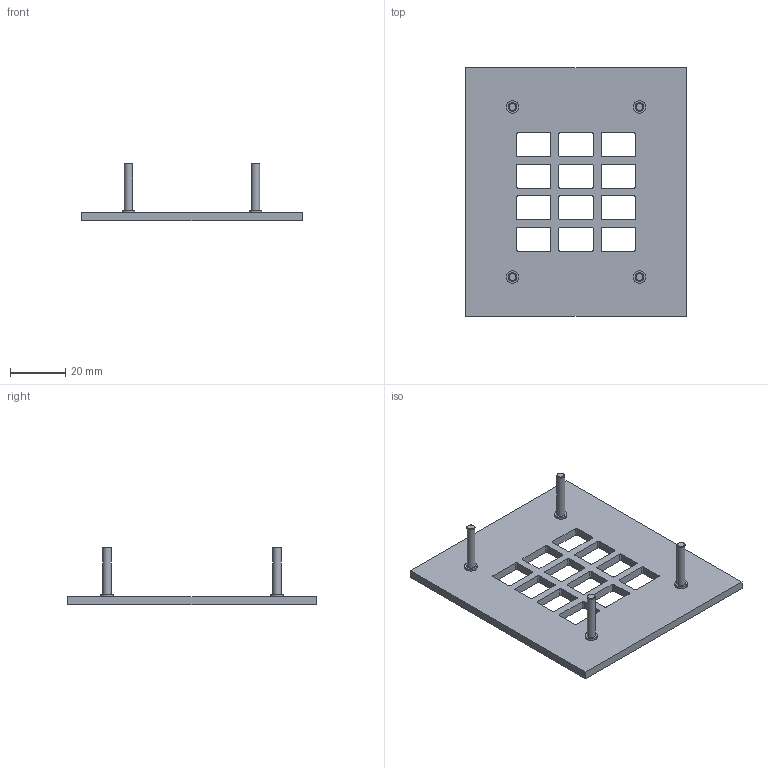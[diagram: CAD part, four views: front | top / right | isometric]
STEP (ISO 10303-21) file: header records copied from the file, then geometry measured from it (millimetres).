
FILE_DESCRIPTION(/* description */ (''),/* implementation_level */ '2;1');
FILE_NAME(/* name */ 'Q:\Neue Struktur\Module\Keypad Modul - D11\Keypad Module D11x.stp',/* time_stamp */ '2023-07-05T16:22:56+02:00',/* author */ ('David Keller'),/* organization */ (''),/* preprocessor_version */ 'ST-DEVELOPER v19',/* originating_system */ 'Autodesk Inventor 2023',/* authorisation */ '');
FILE_SCHEMA (('AUTOMOTIVE_DESIGN { 1 0 10303 214 3 1 1 }'));
Length unit declared in the file: millimetre
Products named in the file (1): Keypad Module D11x
Bounding box: 80 x 90 x 21 mm (x, y, z)
Volume: 18258.4 mm3; surface area: 15011.2 mm2
Topology: 1 solids, 1 shells, 122 faces, 336 edges, 224 vertices
Faces by surface type: plane 62, cylinder 56, cone 4
Full cylindrical faces by diameter (mm): 3 x4, 4.5 x4
Entity records: 4011 total; most frequent: DIRECTION 702, CARTESIAN_POINT 683, ORIENTED_EDGE 672, EDGE_CURVE 336, AXIS2_PLACEMENT_3D 243, VERTEX_POINT 224, LINE 216, VECTOR 216
